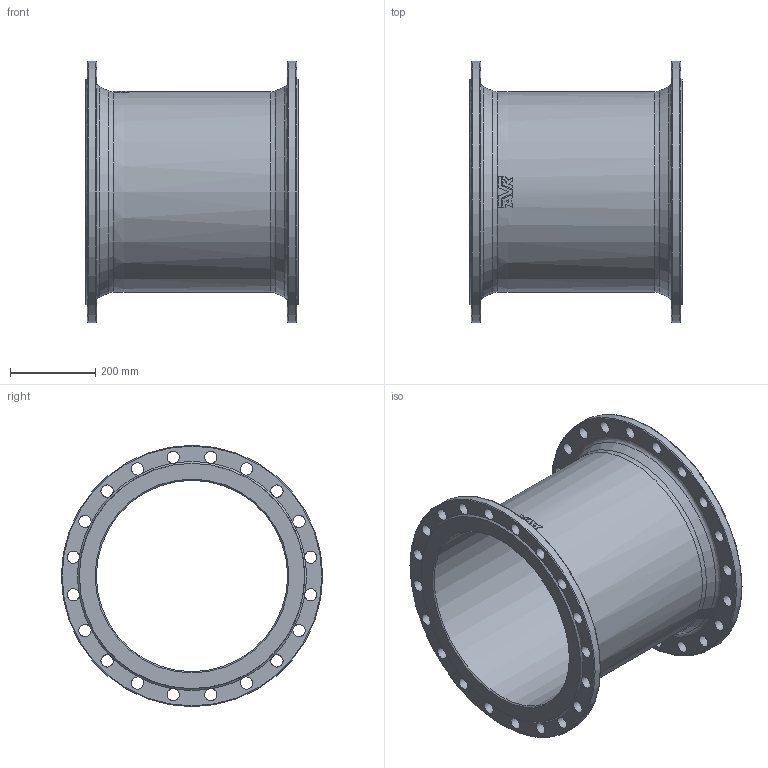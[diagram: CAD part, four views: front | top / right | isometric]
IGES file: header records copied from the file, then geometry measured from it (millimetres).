
Start section: SolidWorks IGES file using analytic representation for surfaces
Global section: file name: \\avksan2\techshare\PBM outline export from Enovia\O_712_4810_DN450_0X_REV01.igs; native system: SolidWorks 2019; preprocessor: SolidWorks 2019; author: pbm; date: 211202.085852; units: millimetre
Bounding box: 500 x 615 x 615 mm (x, y, z)
Surface area: 1957044.6 mm2 (no closed solid volume)
Topology: 0 solids, 0 shells, 105 faces, 692 edges, 633 vertices
Faces by surface type: revolution 62, bspline 43
